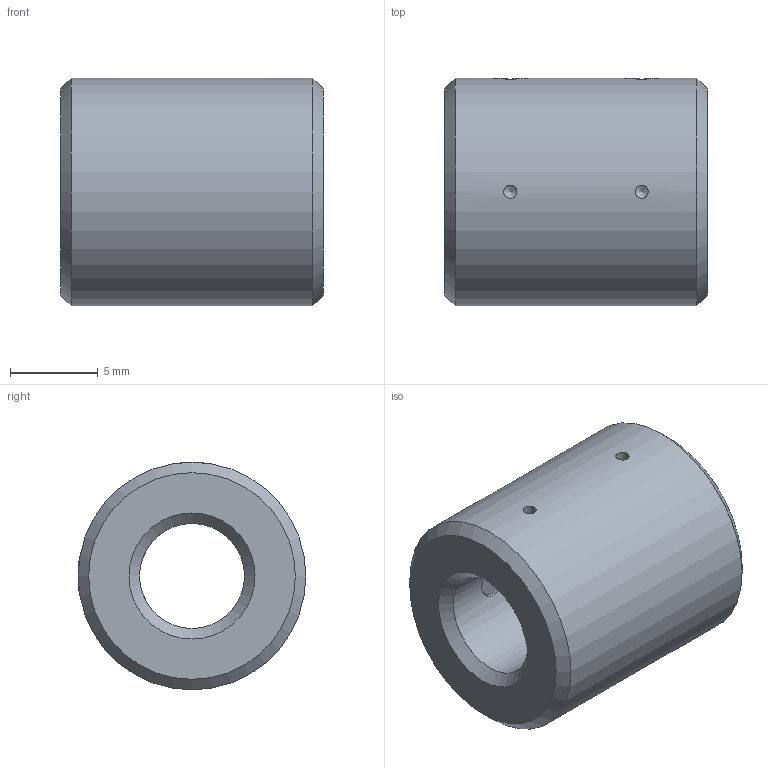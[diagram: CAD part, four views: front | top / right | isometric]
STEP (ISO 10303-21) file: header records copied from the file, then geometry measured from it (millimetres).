
FILE_DESCRIPTION( ( 'STEP AP214' ), '1' );
FILE_NAME( '//expscmdclustefs.cadenas.external/client_exchange/iodir/jobs/output/wkb67505917_no0/STEP/CTM-3_5_995__2_14b.stp', ' ', ( ' ' ), ( ' ' ), 'PSStep 15.0.47', 'PARTsolutions', ' ' );
FILE_SCHEMA( ( 'AUTOMOTIVE_DESIGN { 1 0 10303 214 1 1 1 1 }' ) );
Length unit declared in the file: millimetre
Products named in the file (3): CTM-3(5.995); HI_CTM-3(5.995)1; HI_CTM-3(5.995)2
Assembly tree (3 placements, depth 2):
  CTM-3(5.995)
    HI_CTM-3(5.995)1
    HI_CTM-3(5.995)2  x2
Bounding box: 15 x 13 x 13 mm (x, y, z)
Volume: 1552.2 mm3; surface area: 1161.7 mm2
Topology: 3 solids, 3 shells, 36 faces, 82 edges, 52 vertices
Faces by surface type: cone 14, plane 14, cylinder 8
Full cylindrical faces by diameter (mm): 0.749 x2, 1.755 x2, 2.184 x2, 5.995 x1, 13 x1
Entity records: 1046 total; most frequent: CARTESIAN_POINT 276, DIRECTION 108, ORIENTED_EDGE 76, AXIS2_PLACEMENT_3D 50, EDGE_LOOP 48, EDGE_CURVE 38, VERTEX_POINT 34, FACE_OUTER_BOUND 33
